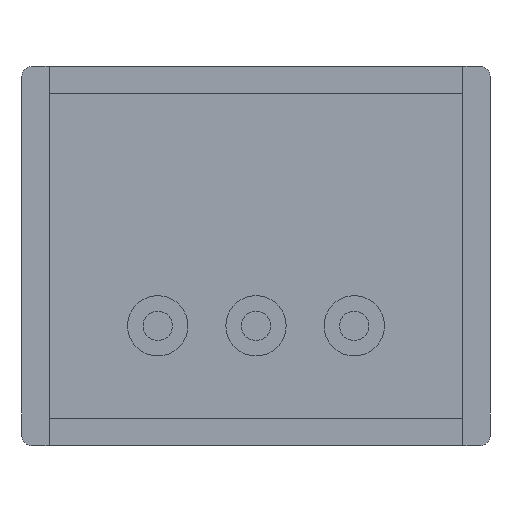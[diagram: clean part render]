
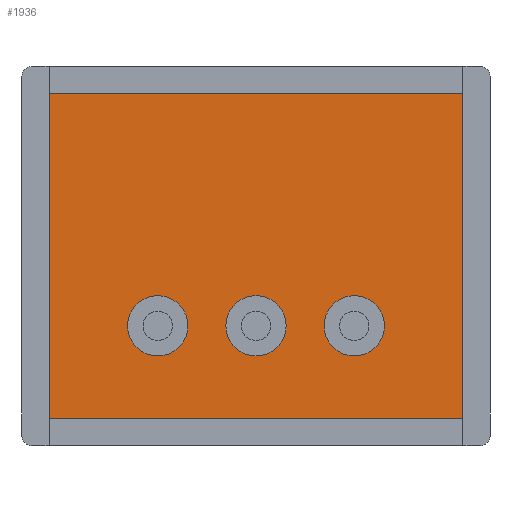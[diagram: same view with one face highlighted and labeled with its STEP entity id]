
A CAD part, front view. The second image highlights one B-rep face of the part: STEP entity #1936.
In plain terms, the highlighted planar face has unit normal (0, -1, 0).
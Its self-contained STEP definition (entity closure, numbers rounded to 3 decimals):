
#1804 = EDGE_CURVE('',#1805,#1807,#1809,.T.);
#1805 = VERTEX_POINT('',#1806);
#1806 = CARTESIAN_POINT('',(5.35,0.,-4.2));
#1807 = VERTEX_POINT('',#1808);
#1808 = CARTESIAN_POINT('',(-5.35,0.,-4.2));
#1809 = LINE('',#1810,#1811);
#1810 = CARTESIAN_POINT('',(-2.675,0.,-4.2));
#1811 = VECTOR('',#1812,1.);
#1812 = DIRECTION('',(-1.,0.,0.));
#1844 = EDGE_CURVE('',#1807,#1845,#1847,.T.);
#1845 = VERTEX_POINT('',#1846);
#1846 = CARTESIAN_POINT('',(-5.35,0.,4.2));
#1847 = LINE('',#1848,#1849);
#1848 = CARTESIAN_POINT('',(-5.35,0.,2.1));
#1849 = VECTOR('',#1850,1.);
#1850 = DIRECTION('',(0.,0.,1.));
#1875 = EDGE_CURVE('',#1845,#1876,#1878,.T.);
#1876 = VERTEX_POINT('',#1877);
#1877 = CARTESIAN_POINT('',(5.35,0.,4.2));
#1878 = LINE('',#1879,#1880);
#1879 = CARTESIAN_POINT('',(2.675,0.,4.2));
#1880 = VECTOR('',#1881,1.);
#1881 = DIRECTION('',(1.,0.,0.));
#1906 = EDGE_CURVE('',#1876,#1805,#1907,.T.);
#1907 = LINE('',#1908,#1909);
#1908 = CARTESIAN_POINT('',(5.35,0.,-2.1));
#1909 = VECTOR('',#1910,1.);
#1910 = DIRECTION('',(0.,0.,-1.));
#1936 = ADVANCED_FACE('',(#1937),#1943,.T.);
#1937 = FACE_BOUND('',#1938,.T.);
#1938 = EDGE_LOOP('',(#1939,#1940,#1941,#1942));
#1939 = ORIENTED_EDGE('',*,*,#1875,.F.);
#1940 = ORIENTED_EDGE('',*,*,#1844,.F.);
#1941 = ORIENTED_EDGE('',*,*,#1804,.F.);
#1942 = ORIENTED_EDGE('',*,*,#1906,.F.);
#1943 = PLANE('',#1944);
#1944 = AXIS2_PLACEMENT_3D('',#1945,#1946,#1947);
#1945 = CARTESIAN_POINT('',(0.,0.,0.));
#1946 = DIRECTION('',(0.,-1.,0.));
#1947 = DIRECTION('',(0.,0.,-1.));
